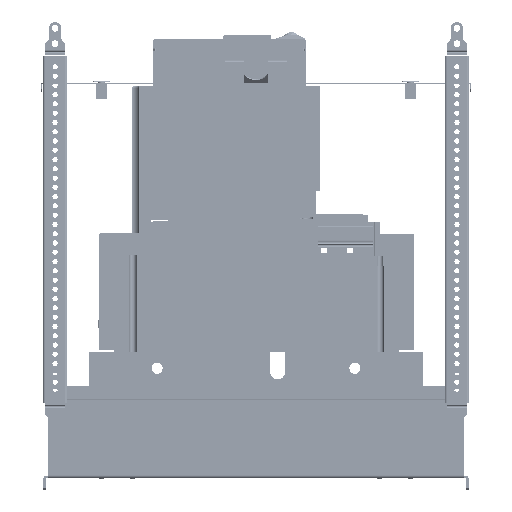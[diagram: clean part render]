
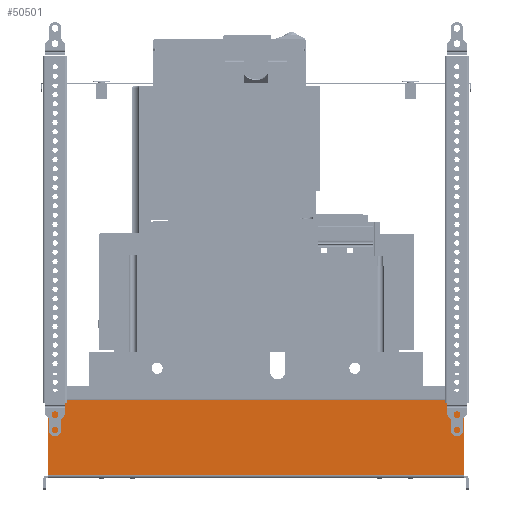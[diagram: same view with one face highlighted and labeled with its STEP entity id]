
A CAD part, left-side view. The second image highlights one B-rep face of the part: STEP entity #50501.
In plain terms, the highlighted planar face has unit normal (-1, 0, 0).
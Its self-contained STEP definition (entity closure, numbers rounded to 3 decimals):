
#47431=CARTESIAN_POINT(' ',(-232.061,-165.467,-65.047));
#47432=VERTEX_POINT(' ',#47431);
#47446=CARTESIAN_POINT(' ',(-232.061,-165.467,-65.047));
#47451=DIRECTION(' ',(0.,1.,0.));
#47456=VECTOR(' ',#47451,1.);
#47461=LINE('',#47446,#47456);
#47466=CARTESIAN_POINT(' ',(-232.061,171.533,-65.047));
#47467=VERTEX_POINT(' ',#47466);
#47471=EDGE_CURVE(' ',#47432,#47467,#47461,.T.);
#48256=CARTESIAN_POINT(' ',(-232.061,171.533,-4.147));
#48261=DIRECTION(' ',(0.,0.,-1.));
#48266=VECTOR(' ',#48261,1.);
#48271=LINE('',#48256,#48266);
#48276=CARTESIAN_POINT(' ',(-232.061,171.533,-4.147));
#48277=VERTEX_POINT(' ',#48276);
#48281=EDGE_CURVE(' ',#48277,#47467,#48271,.T.);
#48841=CARTESIAN_POINT(' ',(-232.061,-165.467,-4.147));
#48842=VERTEX_POINT(' ',#48841);
#48856=CARTESIAN_POINT(' ',(-232.061,-165.467,-65.047));
#48861=DIRECTION(' ',(0.,0.,1.));
#48866=VECTOR(' ',#48861,1.);
#48871=LINE('',#48856,#48866);
#48876=EDGE_CURVE(' ',#47432,#48842,#48871,.T.);
#50421=DIRECTION(' ',(-1.,0.,0.));
#50426=CARTESIAN_POINT(' ',(-232.061,-165.467,-4.147));
#50431=DIRECTION(' ',(0.,1.,0.));
#50436=AXIS2_PLACEMENT_3D(' ',#50426,#50421,#50431);
#50441=PLANE('NONE',#50436);
#50446=ORIENTED_EDGE(' ',*,*,#47471,.F.);
#50451=ORIENTED_EDGE(' ',*,*,#48876,.T.);
#50456=CARTESIAN_POINT(' ',(-232.061,-165.467,-4.147));
#50461=DIRECTION(' ',(0.,1.,0.));
#50466=VECTOR(' ',#50461,1.);
#50471=LINE('',#50456,#50466);
#50476=EDGE_CURVE(' ',#48842,#48277,#50471,.T.);
#50481=ORIENTED_EDGE(' ',*,*,#50476,.T.);
#50486=ORIENTED_EDGE(' ',*,*,#48281,.T.);
#50491=EDGE_LOOP(' ',(#50446,#50451,#50481,#50486));
#50496=FACE_OUTER_BOUND(' ',#50491,.T.);
#50501=ADVANCED_FACE('NONE',(#50496),#50441,.T.);
